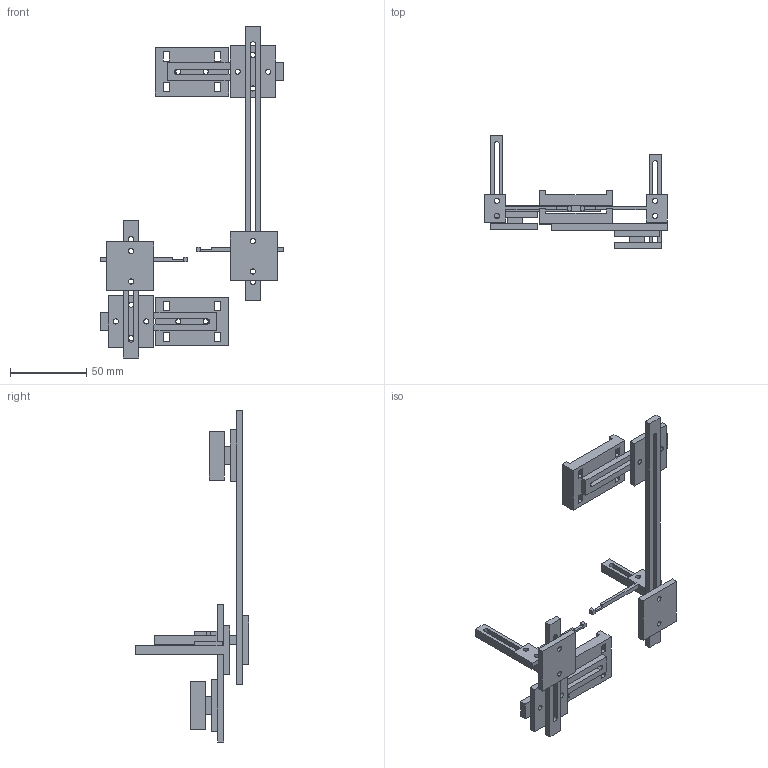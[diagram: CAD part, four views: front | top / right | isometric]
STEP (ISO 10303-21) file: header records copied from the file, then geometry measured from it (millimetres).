
FILE_DESCRIPTION(('Open CASCADE Model'),'2;1');
FILE_NAME('Open CASCADE Shape Model','2026-11-08T04:10:23',('Author'),( 'Open CASCADE'),'Open CASCADE STEP processor 7.8','Open CASCADE 7.8' ,'Unknown');
FILE_SCHEMA(('AUTOMOTIVE_DESIGN { 1 0 10303 214 1 1 1 1 }'));
Length unit declared in the file: millimetre
Products named in the file (13): two_independent_marker_holders; moving_strap_mount; moving_horizontal_bar; moving_corner; moving_vertical_rail; moving_depth_carriage; moving_target_arm; fixed_strap_mount; fixed_horizontal_bar; fixed_corner; fixed_vertical_rail; fixed_depth_carriage; fixed_target_arm
Assembly tree (12 placements, depth 2):
  two_independent_marker_holders
    moving_strap_mount
    moving_horizontal_bar
    moving_corner
    moving_vertical_rail
    moving_depth_carriage
    moving_target_arm
    fixed_strap_mount
    fixed_horizontal_bar
    fixed_corner
    fixed_vertical_rail
    fixed_depth_carriage
    fixed_target_arm
Bounding box: 120 x 74.5 x 218 mm (x, y, z)
Volume: 55293.9 mm3; surface area: 40207.1 mm2
Topology: 12 solids, 12 shells, 216 faces, 568 edges, 376 vertices
Faces by surface type: plane 184, cylinder 32
Full cylindrical faces by diameter (mm): 3.4 x20
Entity records: 14494 total; most frequent: CARTESIAN_POINT 2501, DIRECTION 2194, LINE 1576, VECTOR 1576, ORIENTED_EDGE 1136, PCURVE 1136, DEFINITIONAL_REPRESENTATION 1136, EDGE_CURVE 568
